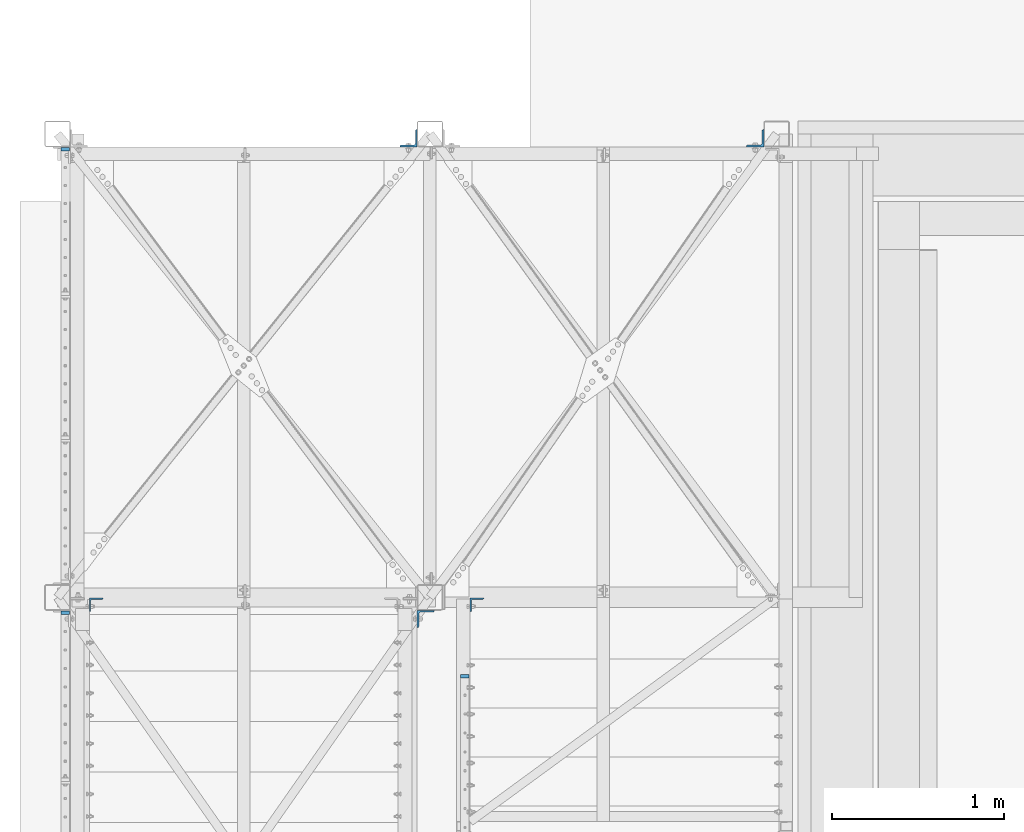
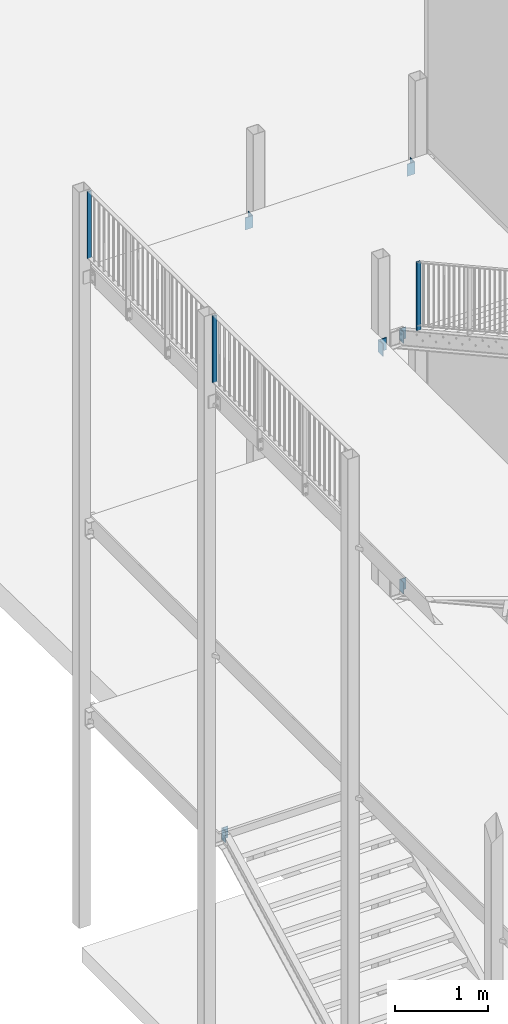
# One storey, part 16 of 78: 9 columns, 8 elements without a shape of their own.
"""IFC2X3 building model written with IfcOpenShell, lengths in millimetres."""

from ifc_helpers import new_model, si_unit, frame, origin_with_axes, origin_2d_with_axis, place, context, subcontext, project, spatial, rectangle, l_section, extrude, clip, halfspace, material, type_object, element, aggregate, save


model = new_model("IFC2X3")

# Units and contexts
model_context = context("Model", 3, precision=1e-05, world=origin_with_axes())
body_context = subcontext(model_context, "Body", "Model", "MODEL_VIEW")
ifc_project = project(units=[si_unit("LENGTHUNIT", "METRE", prefix="MILLI"), si_unit("AREAUNIT", "SQUARE_METRE"), si_unit("VOLUMEUNIT", "CUBIC_METRE"), si_unit("MASSUNIT", "GRAM", prefix="KILO"), si_unit("TIMEUNIT", "SECOND"), si_unit("PLANEANGLEUNIT", "RADIAN"), si_unit("SOLIDANGLEUNIT", "STERADIAN"), si_unit("THERMODYNAMICTEMPERATUREUNIT", "DEGREE_CELSIUS"), si_unit("LUMINOUSINTENSITYUNIT", "LUMEN")], contexts=[model_context])

# Site, building, storey
site_placement = place(None, origin_with_axes())
site = spatial("IfcSite", under=ifc_project, at=site_placement, Name="Site", CompositionType="ELEMENT")
building_placement = place(site_placement, origin_with_axes())
building = spatial("IfcBuilding", under=site, at=building_placement, Name="Undefined", CompositionType="ELEMENT")
storey_placement = place(building_placement, origin_with_axes())
storey = spatial("IfcBuildingStorey", under=building, at=storey_placement, Name="Undefined", CompositionType="ELEMENT", Elevation=0.0)

# Assembly, column
assembly_1_placement = place(storey_placement, origin_with_axes())
assembly_1 = element("IfcElementAssembly", 1, at=assembly_1_placement, inside=storey, Name="MAIN_COURANTE", AssemblyPlace="NOTDEFINED", PredefinedType="RIGID_FRAME")
ifc_material = material(Name="STEEL/S235JR")
column_type_1 = type_object("IfcColumnType", Name="PL20*50", PredefinedType="NOTDEFINED")
column_1_placement = place(assembly_1_placement, frame((-35341.43, 12718.0, 156810.04), z_axis=(0.0, 0.0, 1.0), x_axis=(1.0, 0.0, 0.0)))
column_1 = element("IfcColumn", 2, at=column_1_placement, type_object=column_type_1, material=ifc_material, Name="MONTANT", ObjectType="PL20*50", context=body_context, shape_type="Clipping", body=[
    clip(extrude(rectangle(XDim=20.0, YDim=50.0, at=origin_2d_with_axis()), frame((0.0, 0.0, 890.0), z_axis=(0.0, 0.0, -1.0), x_axis=(0.0, 1.0, 0.0)), (0.0, 0.0, 1.0), 890.0), halfspace(frame((0.0, 0.0, 880.0), z_axis=(0.0, 0.0, 1.0), x_axis=(-1.0, 0.0, 0.0)), False)),
])
aggregate(assembly_1, [column_1])

assembly_2_placement = place(storey_placement, origin_with_axes())
assembly_2 = element("IfcElementAssembly", 3, at=assembly_2_placement, inside=storey, Name="MAIN_COURANTE", AssemblyPlace="NOTDEFINED", PredefinedType="RIGID_FRAME")
column_2_placement = place(assembly_2_placement, frame((-33012.8599999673, 9647.9999998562, 156905.303158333), z_axis=(0.0, 0.0, 1.0), x_axis=(1.0, 0.0, 0.0)))
column_2 = element("IfcColumn", 4, at=column_2_placement, type_object=column_type_1, material=ifc_material, Name="MONTANT", ObjectType="PL20*50", context=body_context, shape_type="SweptSolid", body=[
    extrude(rectangle(XDim=20.0, YDim=50.0, at=origin_2d_with_axis()), frame((0.0, 0.0, 900.0), z_axis=(0.0, 0.0, -1.0), x_axis=(0.0, 1.0, 0.0)), (0.0, 0.0, 1.0), 900.0),
])
aggregate(assembly_2, [column_2])

assembly_3_placement = place(storey_placement, origin_with_axes())
assembly_3 = element("IfcElementAssembly", 5, at=assembly_3_placement, inside=storey, Name="MAIN_COURANTE", AssemblyPlace="NOTDEFINED", PredefinedType="RIGID_FRAME")
column_3_placement = place(assembly_3_placement, frame((-35341.43, 10018.0, 156810.04), z_axis=(0.0, 0.0, 1.0), x_axis=(1.0, 0.0, 0.0)))
column_3 = element("IfcColumn", 6, at=column_3_placement, type_object=column_type_1, material=ifc_material, Name="MONTANT", ObjectType="PL20*50", context=body_context, shape_type="Clipping", body=[
    clip(extrude(rectangle(XDim=20.0, YDim=50.0, at=origin_2d_with_axis()), frame((0.0, 0.0, 890.0), z_axis=(0.0, 0.0, -1.0), x_axis=(0.0, 1.0, 0.0)), (0.0, 0.0, 1.0), 890.0), halfspace(frame((0.0, 0.0, 880.0), z_axis=(0.0, 0.0, 1.0), x_axis=(-1.0, 0.0, 0.0)), False)),
])
aggregate(assembly_3, [column_3])

assembly_4_placement = place(storey_placement, origin_with_axes())
assembly_4 = element("IfcElementAssembly", 7, at=assembly_4_placement, inside=storey, AssemblyPlace="NOTDEFINED", PredefinedType="RIGID_FRAME")
column_type_2 = type_object("IfcColumnType", Name="L100*10", PredefinedType="NOTDEFINED")
column_4_placement = place(assembly_4_placement, frame((-33241.43, 9983.0, 156480.04), z_axis=(0.0, 0.0, 1.0), x_axis=(0.0, -1.0, 0.0)))
column_4 = element("IfcColumn", 8, at=column_4_placement, type_object=column_type_2, material=ifc_material, Name="CORNIERE", ObjectType="L100*10", context=body_context, shape_type="SweptSolid", body=[
    extrude(l_section(Depth=100.0, Width=100.0, Thickness=10.0, FilletRadius=12.0, EdgeRadius=6.0, at=origin_2d_with_axis()), frame((0.0, 0.0, 160.0), z_axis=(0.0, 0.0, -1.0), x_axis=(0.0, 1.0, 0.0)), (0.0, 0.0, 1.0), 160.0),
])
aggregate(assembly_4, [column_4])

assembly_5_placement = place(storey_placement, origin_with_axes())
assembly_5 = element("IfcElementAssembly", 9, at=assembly_5_placement, inside=storey, Name="POTEAU", AssemblyPlace="NOTDEFINED", PredefinedType="RIGID_FRAME")
column_5_placement = place(assembly_5_placement, frame((-31321.43, 12783.0, 156480.04), z_axis=(0.0, 0.0, 1.0), x_axis=(0.0, 1.0, 0.0)))
column_5 = element("IfcColumn", 10, at=column_5_placement, type_object=column_type_2, material=ifc_material, Name="CORNIERE", ObjectType="L100*10", context=body_context, shape_type="SweptSolid", body=[
    extrude(l_section(Depth=100.0, Width=100.0, Thickness=10.0, FilletRadius=12.0, EdgeRadius=6.0, at=origin_2d_with_axis()), frame((0.0, 0.0, 160.0), z_axis=(0.0, 0.0, -1.0), x_axis=(0.0, 1.0, 0.0)), (0.0, 0.0, 1.0), 160.0),
])
aggregate(assembly_5, [column_5])

assembly_6_placement = place(storey_placement, origin_with_axes())
assembly_6 = element("IfcElementAssembly", 11, at=assembly_6_placement, inside=storey, Name="POTEAU", AssemblyPlace="NOTDEFINED", PredefinedType="RIGID_FRAME")
column_6_placement = place(assembly_6_placement, frame((-33341.43, 12783.0, 156480.04), z_axis=(0.0, 0.0, 1.0), x_axis=(0.0, 1.0, 0.0)))
column_6 = element("IfcColumn", 12, at=column_6_placement, type_object=column_type_2, material=ifc_material, Name="CORNIERE", ObjectType="L100*10", context=body_context, shape_type="SweptSolid", body=[
    extrude(l_section(Depth=100.0, Width=100.0, Thickness=10.0, FilletRadius=12.0, EdgeRadius=6.0, at=origin_2d_with_axis()), frame((0.0, 0.0, 160.0), z_axis=(0.0, 0.0, -1.0), x_axis=(0.0, 1.0, 0.0)), (0.0, 0.0, 1.0), 160.0),
])
aggregate(assembly_6, [column_6])

assembly_7_placement = place(storey_placement, origin_with_axes())
assembly_7 = element("IfcElementAssembly", 13, at=assembly_7_placement, inside=storey, AssemblyPlace="NOTDEFINED", PredefinedType="RIGID_FRAME")
column_type_3 = type_object("IfcColumnType", Name="L80*8", PredefinedType="NOTDEFINED")
column_7_placement = place(assembly_7_placement, frame((-35161.4300000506, 10065.0499999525, 150685.039999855), z_axis=(0.0, 0.0, 1.0), x_axis=(0.0, -1.0, 0.0)))
column_7 = element("IfcColumn", 14, at=column_7_placement, type_object=column_type_3, material=ifc_material, Name="CORNIERE", ObjectType="L80*8", context=body_context, shape_type="SweptSolid", body=[
    extrude(l_section(Depth=80.0, Width=80.0, Thickness=8.0, FilletRadius=10.0, EdgeRadius=5.0, at=origin_2d_with_axis()), frame((0.0, 0.0, 150.0), z_axis=(0.0, 0.0, -1.0), x_axis=(0.0, 1.0, 0.0)), (0.0, 0.0, 1.0), 150.0),
])
aggregate(assembly_7, [column_7])

# Assembly, columns
assembly_8_placement = place(storey_placement, origin_with_axes())
assembly_8 = element("IfcElementAssembly", 15, at=assembly_8_placement, inside=storey, Name="POTEAU", AssemblyPlace="NOTDEFINED", PredefinedType="RIGID_FRAME")
column_8_placement = place(assembly_8_placement, frame((-32942.8600000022, 10064.9000000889, 153185.040000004), z_axis=(0.0, 0.0, 1.0), x_axis=(0.0, -1.0, 0.0)))
column_8 = element("IfcColumn", 16, at=column_8_placement, type_object=column_type_3, material=ifc_material, Name="CORNIERE", ObjectType="L80*8", context=body_context, shape_type="SweptSolid", body=[
    extrude(l_section(Depth=80.0, Width=80.0, Thickness=8.0, FilletRadius=10.0, EdgeRadius=5.0, at=origin_2d_with_axis()), frame((0.0, 0.0, 150.0), z_axis=(0.0, 0.0, -1.0), x_axis=(0.0, 1.0, 0.0)), (0.0, 0.0, 1.0), 150.0),
])
column_9_placement = place(assembly_8_placement, frame((-32942.8600000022, 10064.9000000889, 156485.040000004), z_axis=(0.0, 0.0, 1.0), x_axis=(0.0, -1.0, 0.0)))
column_9 = element("IfcColumn", 17, at=column_9_placement, type_object=column_type_3, material=ifc_material, Name="CORNIERE", ObjectType="L80*8", context=body_context, shape_type="SweptSolid", body=[
    extrude(l_section(Depth=80.0, Width=80.0, Thickness=8.0, FilletRadius=10.0, EdgeRadius=5.0, at=origin_2d_with_axis()), frame((0.0, 0.0, 150.0), z_axis=(0.0, 0.0, -1.0), x_axis=(0.0, 1.0, 0.0)), (0.0, 0.0, 1.0), 150.0),
])
aggregate(assembly_8, [column_8, column_9])

save(model, "model.ifc")
